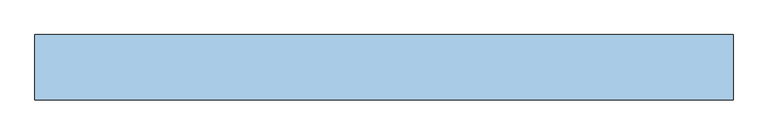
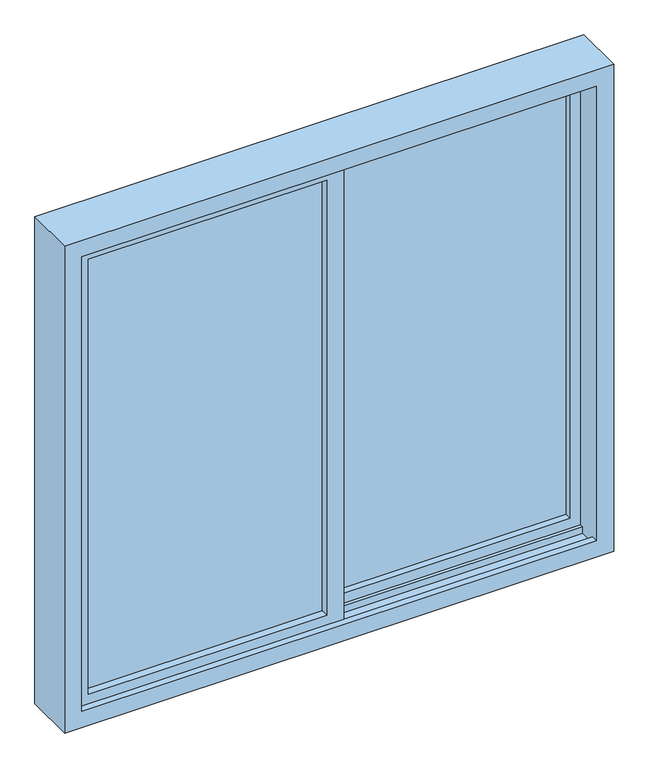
"""IFC4 building model written with IfcOpenShell, lengths in millimetres: window geometry, 두짝미서기창 : 두짝미서기창 3."""

from ifc_helpers import new_model, si_unit, frame, origin, place, context, project, spatial, polyline, outline, extrude, faceted_brep, source, transform, mapped, element, save


def window_d353b05b(model_context):
    return source(origin(), model_context, "Body", "SolidModel", [
        extrude(outline(polyline([(720.0, 27.5), (25.0, 27.5), (25.0, 32.5), (720.0, 32.5), (720.0, 27.5)])), frame((0.0, 0.0, 680.0), z_axis=(0.0, 0.0, 1.0), x_axis=(1.0, 0.0, 0.0)), (0.0, 0.0, 1.0), 1340.0),
        extrude(outline(polyline([(-25.0, -32.5), (-720.0, -32.5), (-720.0, -27.5), (-25.0, -27.5), (-25.0, -32.5)])), frame((0.0, 0.0, 680.0), z_axis=(0.0, 0.0, 1.0), x_axis=(1.0, 0.0, 0.0)), (0.0, 0.0, 1.0), 1340.0),
        extrude(outline(polyline([(630.0, -770.0), (630.0, 25.0), (2070.0, 25.0), (2070.0, -770.0), (630.0, -770.0)]), holes=[polyline([(2020.0, -720.0), (2020.0, -25.0), (680.0, -25.0), (680.0, -720.0), (2020.0, -720.0)])]), frame((0.0, -55.0, 0.0), z_axis=(0.0, 1.0, 0.0), x_axis=(0.0, 0.0, 1.0)), (0.0, 0.0, 1.0), 47.5),
        extrude(outline(polyline([(630.0, -25.0), (630.0, 770.0), (2070.0, 770.0), (2070.0, -25.0), (630.0, -25.0)]), holes=[polyline([(2020.0, 25.0), (2020.0, 720.0), (680.0, 720.0), (680.0, 25.0), (2020.0, 25.0)])]), frame((0.0, 7.5, 0.0), z_axis=(0.0, 1.0, 0.0), x_axis=(0.0, 0.0, 1.0)), (0.0, 0.0, 1.0), 45.0),
        faceted_brep([(-800.0, 75.0, 2100.0), (-800.0, 75.0, 600.0), (-800.0, -75.0, 600.0), (-800.0, -75.0, 2100.0), (800.0, 75.0, 2100.0), (800.0, 75.0, 600.0), (750.0, 75.0, 650.0), (750.0, 75.0, 2050.0), (-750.0, 75.0, 2050.0), (-750.0, 75.0, 650.0), (800.0, -75.0, 600.0), (800.0, -75.0, 2100.0), (-750.0, -75.0, 2050.0), (750.0, -75.0, 2050.0), (750.0, -75.0, 650.0), (-750.0, -75.0, 650.0), (750.0, 55.0, 650.0), (750.0, 55.0, 2050.0), (-750.0, 55.0, 2050.0), (-750.0, 55.0, 2070.0), (-750.0, 5.0, 2070.0), (-750.0, 5.0, 2050.0), (-750.0, -5.0, 2050.0), (-750.0, -5.0, 650.0), (-750.0, 5.0, 650.0), (-750.0, 5.0, 630.0), (-750.0, 55.0, 630.0), (-750.0, 55.0, 650.0), (750.0, -5.0, 650.0), (750.0, 5.0, 650.0), (750.0, -5.0, 630.0), (750.0, -55.0, 630.0), (750.0, -55.0, 650.0), (750.0, -55.0, 2050.0), (750.0, -55.0, 2070.0), (750.0, -5.0, 2070.0), (750.0, -5.0, 2050.0), (750.0, 5.0, 2050.0), (770.0, 5.0, 2070.0), (770.0, 5.0, 630.0), (-770.0, -5.0, 2070.0), (-770.0, -5.0, 630.0), (770.0, 55.0, 2070.0), (770.0, 55.0, 630.0), (-770.0, -55.0, 630.0), (-750.0, -55.0, 2050.0), (-750.0, -55.0, 650.0), (-770.0, -55.0, 2070.0)], [[[0, 1, 2, 3]], [[4, 5, 1, 0], [6, 7, 8, 9]], [[1, 5, 10, 2]], [[10, 11, 3, 2], [12, 13, 14, 15]], [[7, 6, 16, 17]], [[9, 8, 18, 19, 20, 21, 22, 23, 24, 25, 26, 27]], [[16, 6, 9, 27]], [[5, 4, 11, 10]], [[28, 29, 24, 23]], [[28, 30, 31, 32, 14, 13, 33, 34, 35, 36, 37, 29]], [[29, 37, 21, 20, 38, 39, 25, 24]], [[40, 41, 30, 28, 23, 22, 36, 35]], [[39, 38, 42, 43]], [[39, 43, 26, 25]], [[43, 42, 19, 18, 17, 16, 27, 26]], [[41, 44, 31, 30]], [[45, 46, 32, 31, 44, 47, 34, 33]], [[46, 15, 14, 32]], [[12, 15, 46, 45]], [[47, 44, 41, 40]], [[3, 11, 4, 0]], [[7, 17, 18, 8]], [[37, 36, 22, 21]], [[42, 38, 20, 19]], [[12, 45, 33, 13]], [[47, 40, 35, 34]]]),
    ])


if __name__ == "__main__":
    model = new_model("IFC4")
    model_context = context("Model", 3, world=origin())
    ifc_project = project(units=[si_unit("LENGTHUNIT", "METRE", prefix="MILLI")], contexts=[model_context])
    site = spatial("IfcSite", under=ifc_project)
    building = spatial("IfcBuilding", under=site)
    placement = place(None, origin())
    window_shape = window_d353b05b(model_context)
    element("IfcWindow", 1, ObjectType="두짝미서기창 : 두짝미서기창 3", at=placement, inside=building, context=model_context, shape_type="MappedRepresentation", body=[
        mapped(window_shape, transform((0.0, 0.0, 0.0), x_axis=(1.0, 0.0, 0.0), y_axis=(0.0, 1.0, 0.0), z_axis=(0.0, 0.0, 1.0))),
    ])
    save(model, "model.ifc")
